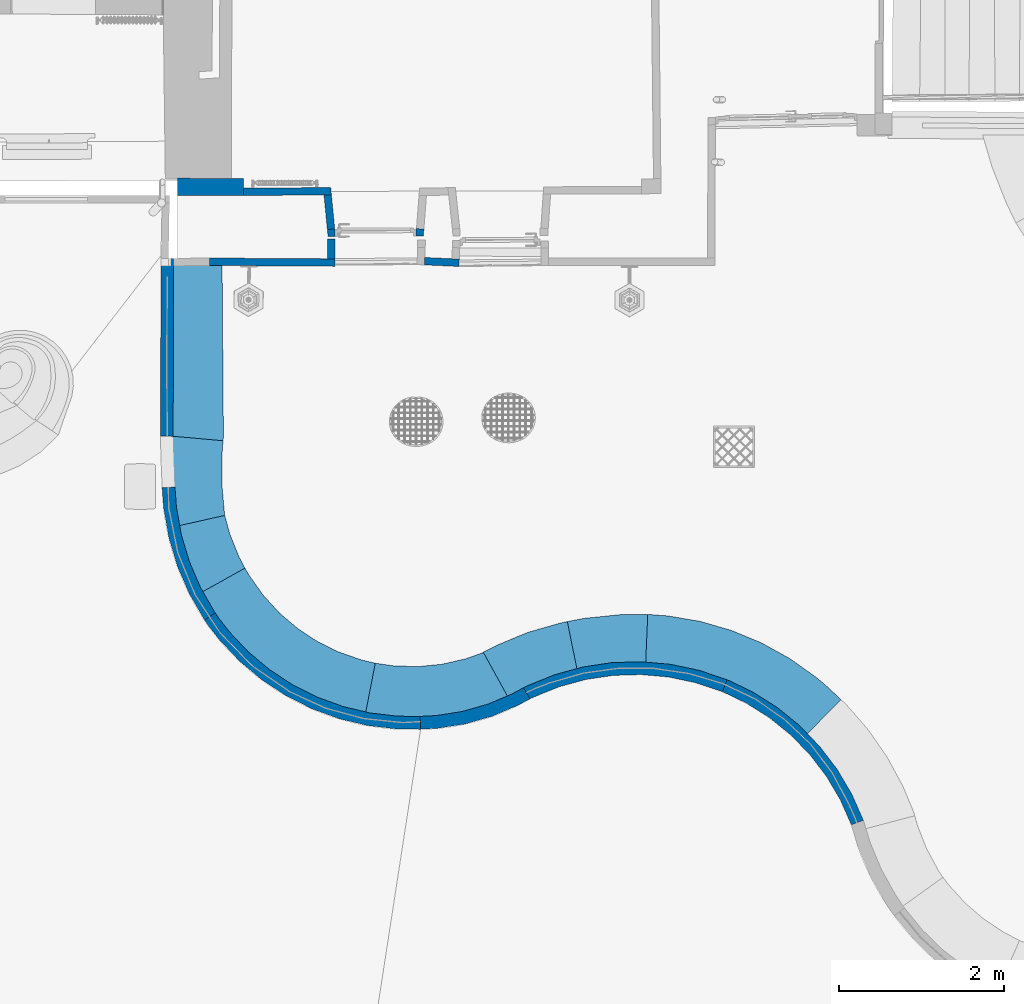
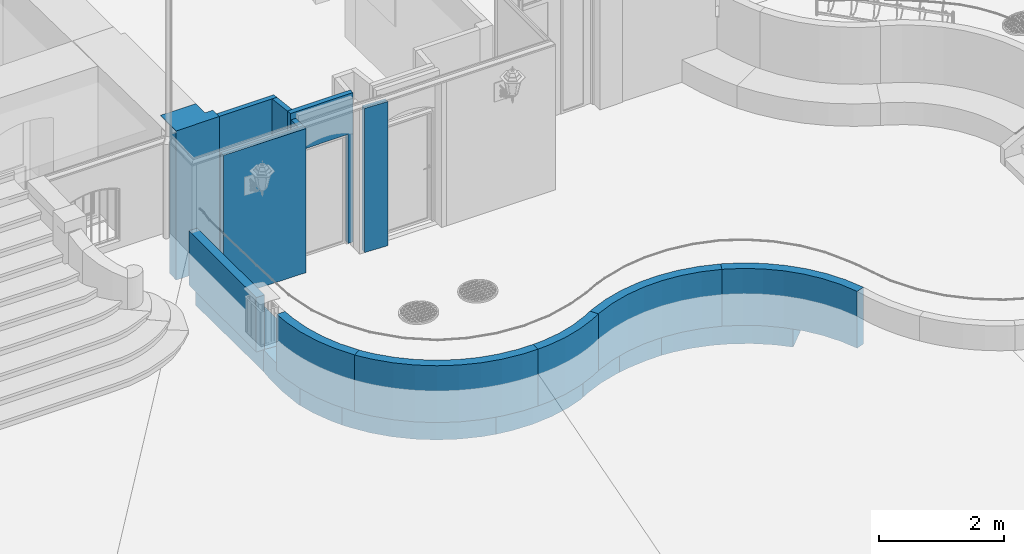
# One storey, part 16 of 133: 21 walls, 1 opening.
"""IFC2X3 building model written with IfcOpenShell, lengths in centimetres."""

from ifc_helpers import new_model, entity, si_unit, converted_unit, direction, frame, origin, origin_with_axes, place, context, subcontext, project, spatial, polyline, outline, extrude, clip, bounded_halfspace, shape, material, layer, layer_set, layer_usage, type_object, element, save


model = new_model("IFC2X3")

# Units and contexts
model_context = context("Model", 3, precision=0.0001, world=origin(), true_north=direction((0.225632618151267, 0.974212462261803, 0.0)))
body_context = subcontext(model_context, "Body", "Model", "MODEL_VIEW")
footprint_context = subcontext(model_context, "FootPrint", "Model", "MODEL_VIEW")
profile_context = subcontext(model_context, "Profile", "Model", "MODEL_VIEW")
ifc_project = project(units=[si_unit("LENGTHUNIT", "METRE", prefix="CENTI"), si_unit("AREAUNIT", "SQUARE_METRE", prefix="CENTI"), si_unit("VOLUMEUNIT", "CUBIC_METRE", prefix="CENTI"), converted_unit("PLANEANGLEUNIT", "DEGREE", entity("IfcRatioMeasure", 0.0174532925), si_unit("PLANEANGLEUNIT", "RADIAN"), dimensions=[0, 0, 0, 0, 0, 0, 0])], contexts=[model_context])

# Site, building, storey
site_placement = place(None, origin_with_axes())
site = spatial("IfcSite", under=ifc_project, at=site_placement, Name="Default Site", CompositionType="ELEMENT")
building_placement = place(site_placement, origin_with_axes())
building = spatial("IfcBuilding", under=site, at=building_placement, Name="Default Building", CompositionType="ELEMENT")
storey_placement = place(building_placement, frame((0.0, 0.0, -291.400371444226), z_axis=(0.0, 0.0, 1.0), x_axis=(1.0, 0.0, 0.0)))
storey = spatial("IfcBuildingStorey", under=building, at=storey_placement, Name="Rez-de-Jardin", CompositionType="ELEMENT", Elevation=-291.400371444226)

# Wall, opening
ifc_material = material(Name="<aucun>")
ifc_layer_1 = layer(ifc_material, 9.0)
ifc_layer_set_1 = layer_set([ifc_layer_1], Name="default")
ifc_layer_usage_1 = layer_usage(ifc_layer_set_1, "AXIS2", "POSITIVE", -4.5)
wall_type_1 = type_object("IfcWallType", Name="default 90", PredefinedType="NOTDEFINED", material=ifc_layer_set_1)
wall_1_placement = place(storey_placement, frame((437.258422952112, -1016.22982376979, -1.94511073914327e-11), z_axis=(0.0, 0.0, 1.0), x_axis=(0.999993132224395, 0.00370614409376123, 0.0)))
wall_1 = element("IfcWallStandardCase", 1, at=wall_1_placement, inside=storey, type_object=wall_type_1, material=ifc_layer_usage_1, Name="Enveloppe 591621", context=body_context, shape_type="SweptSolid", body=[
    extrude(outline(polyline([(-4.86364892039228, 3.65774967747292), (-4.09685410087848, -4.49999999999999), (111.535086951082, -4.50000000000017), (112.195457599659, 3.7848982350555), (103.223912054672, 4.50000000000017), (4.09685410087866, 4.49999999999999), (-4.86364892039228, 3.65774967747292)])), frame((0.0, 0.0, 8.88178419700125e-14), z_axis=(0.0, 0.0, 1.0), x_axis=(1.0, 0.0, 0.0)), (0.0, 0.0, 1.0), 291.413221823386),
])
opening_placement = place(wall_1_placement, frame((4.61849566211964, 0.0, 1.94506633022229e-11), z_axis=(0.0, 0.0, 1.0), x_axis=(1.0, -3.43908929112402e-16, 0.0)))
cartesian_point_1 = entity("IfcCartesianPoint", [0.0, 0.0, 213.0])
cartesian_point_2 = entity("IfcCartesianPoint", [98.1000000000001, 4.49999999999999])
element("IfcOpeningElement", 2, at=opening_placement, cuts=wall_1, Name="4294966342_11", ObjectType="Opening", shapes=[
    shape(body_context, "Body", "SweptSolid", [extrude(outline(polyline([(0.0, 213.0), (0.0, 0.0), (98.1000000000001, 0.0), (98.1000000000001, 213.0), (0.0, 213.0)])), frame((0.0, 14.5, 0.0), z_axis=(0.0, -1.0, 0.0), x_axis=(1.0, 0.0, 0.0)), (0.0, 0.0, 1.0), 29.0)]),
    shape(profile_context, "Profile", "GeometricCurveSet", [entity("IfcGeometricCurveSet", [entity("IfcPolyline", [cartesian_point_1, entity("IfcCartesianPoint", [0.0, 0.0, 0.0]), entity("IfcCartesianPoint", [98.1000000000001, 0.0, 0.0]), entity("IfcCartesianPoint", [98.1000000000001, 0.0, 213.0]), cartesian_point_1])])]),
    shape(footprint_context, "FootPrint", "GeometricCurveSet", [entity("IfcGeometricCurveSet", [entity("IfcPolyline", [cartesian_point_2, entity("IfcCartesianPoint", [0.0, 4.49999999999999]), entity("IfcCartesianPoint", [8.88178419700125e-14, -4.49999999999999]), entity("IfcCartesianPoint", [98.1000000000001, -4.49999999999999]), cartesian_point_2])])]),
])

# Walls
ifc_layer_usage_2 = layer_usage(ifc_layer_set_1, "AXIS2", "POSITIVE", -4.5)
wall_2_placement = place(storey_placement, frame((330.862484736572, -966.623801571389, -1.94511073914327e-11), z_axis=(0.0, 0.0, 1.0), x_axis=(0.999992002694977, 0.00399931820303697, 0.0)))
element("IfcWallStandardCase", 3, at=wall_2_placement, inside=storey, type_object=wall_type_1, material=ifc_layer_usage_2, Name="Enveloppe 590772", context=body_context, shape_type="SweptSolid", body=[
    extrude(outline(polyline([(-0.0682279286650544, -4.50000000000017), (106.45013542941, -4.50000000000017), (105.606834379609, 4.50000000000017), (-4.44089209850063e-13, 4.50000000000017), (-0.0682279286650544, -4.50000000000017)])), frame((0.0, 0.0, 8.88178419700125e-14), z_axis=(0.0, 0.0, 1.0), x_axis=(1.0, 0.0, 0.0)), (0.0, 0.0, 1.0), 291.413221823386),
])
ifc_layer_usage_3 = layer_usage(ifc_layer_set_1, "AXIS2", "POSITIVE", -4.5)
wall_3_placement = place(storey_placement, frame((436.85991127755, -1012.1523978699, -1.94511073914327e-11), z_axis=(0.0, 0.0, 1.0), x_axis=(-0.097272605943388, 0.995257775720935, 0.0)))
element("IfcWallStandardCase", 4, at=wall_3_placement, inside=storey, type_object=wall_type_1, material=ifc_layer_usage_3, Name="Enveloppe 590863", context=body_context, shape_type="SweptSolid", body=[
    extrude(outline(polyline([(42.0553714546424, 4.49999999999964), (3.5527136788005e-13, 4.50000000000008), (0.0, -4.49999999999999), (41.2120704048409, -4.50000000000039), (42.0553714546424, 4.49999999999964)])), frame((0.0, 0.0, 4.44089209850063e-14), z_axis=(0.0, 0.0, 1.0), x_axis=(1.0, 0.0, 0.0)), (0.0, 0.0, 1.0), 291.413221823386),
])
ifc_layer_usage_4 = layer_usage(ifc_layer_set_1, "AXIS2", "POSITIVE", -4.5)
wall_4_placement = place(storey_placement, frame((436.960016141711, -1057.06205301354, -1.94511073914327e-11), z_axis=(0.0, 0.0, 1.0), x_axis=(-0.00267844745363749, 0.999996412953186, 0.0)))
element("IfcWallStandardCase", 5, at=wall_4_placement, inside=storey, type_object=wall_type_1, material=ifc_layer_usage_4, Name="Enveloppe 69545", context=body_context, shape_type="SweptSolid", body=[
    extrude(outline(polyline([(33.0658013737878, 4.49999999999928), (9.08362709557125, 4.49999999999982), (9.00038495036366, -4.50000000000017), (32.9586411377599, -4.5000000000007), (33.0658013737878, 4.49999999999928)])), origin_with_axes(), (0.0, 0.0, 1.0), 281.400371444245),
])
ifc_layer_2 = layer(ifc_material, 80.0)
ifc_layer_set_2 = layer_set([ifc_layer_2], Name="default")
ifc_layer_usage_5 = layer_usage(ifc_layer_set_2, "AXIS2", "POSITIVE", -40.0)
wall_type_2 = type_object("IfcWallType", Name="default 800", PredefinedType="NOTDEFINED", material=ifc_layer_set_2)
wall_5_placement = place(storey_placement, frame((290.812510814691, -970.980782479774, -1.94511073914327e-11), z_axis=(0.0, 0.0, 1.0), x_axis=(0.00358139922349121, 0.999993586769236, 0.0)))
element("IfcWallStandardCase", 6, at=wall_5_placement, inside=storey, type_object=wall_type_2, material=ifc_layer_usage_5, Name="Enveloppe 68454", context=body_context, shape_type="Clipping", body=[
    clip(clip(extrude(outline(polyline([(-0.606470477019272, 39.9999999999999), (0.0, -40.0), (20.5686843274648, -39.9999999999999), (20.5686843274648, -25.0), (49.7467873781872, -24.9999999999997), (49.7467860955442, 40.0003581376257), (-0.606470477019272, 39.9999999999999)])), frame((0.0, 0.0, 1.33226762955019e-13), z_axis=(0.0, 0.0, 1.0), x_axis=(1.0, 0.0, 0.0)), (0.0, 0.0, 1.0), 291.413221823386), bounded_halfspace(frame((49.7467873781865, 23.7096504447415, 289.400371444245), z_axis=(0.0, 0.0, 1.0), x_axis=(2.10682166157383e-15, -1.0, 0.0)), True, frame((49.7467873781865, 23.7096504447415, 289.400371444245), z_axis=(0.0, 0.0, 1.0), x_axis=(1.0, 0.0, 0.0)), polyline([(-29.1781030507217, -48.7096504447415), (-29.1781030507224, -33.4129999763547), (-4.53511921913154, -33.4642636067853), (-3.51591060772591, -24.4663643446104), (-29.1781030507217, -24.4129805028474), (-29.1781030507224, 16.2903495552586), (-1.77635683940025e-13, 16.2903495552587), (7.105427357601e-13, -48.7096504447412), (-29.1781030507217, -48.7096504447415)]))), bounded_halfspace(frame((46.2308767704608, -0.756713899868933, 289.400371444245), z_axis=(0.0, 0.0, 1.0), x_axis=(-0.112552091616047, -0.993645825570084, 0.0)), True, frame((46.2308767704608, -0.756713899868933, 289.400371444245), z_axis=(0.0, 0.0, 1.0), x_axis=(1.0, 0.0, 0.0)), polyline([(-25.6621924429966, -8.94663563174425), (-25.6621924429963, 0.0533838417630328), (-1.77635683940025e-13, 0.0), (-1.01920861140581, -8.99789926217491), (-25.6621924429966, -8.94663563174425)]))),
])
ifc_layer_3 = layer(ifc_material, 15.3)
ifc_layer_set_3 = layer_set([ifc_layer_3], Name="default")
ifc_layer_usage_6 = layer_usage(ifc_layer_set_3, "AXIS2", "POSITIVE", -7.65)
wall_type_3 = type_object("IfcWallType", Name="default 153", PredefinedType="NOTDEFINED", material=ifc_layer_set_3)
wall_6_placement = place(storey_placement, frame((237.787897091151, -1263.1580687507, 43.7000000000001), z_axis=(0.0, 0.0, 1.0), x_axis=(0.00180513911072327, 0.999998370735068, 0.0)))
element("IfcWallStandardCase", 7, at=wall_6_placement, inside=storey, type_object=wall_type_3, material=ifc_layer_usage_6, Name="Enveloppe 69280", context=body_context, shape_type="SweptSolid", body=[
    extrude(outline(polyline([(-6.75015598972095e-11, 7.64999999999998), (-6.75015598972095e-11, -7.65000000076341), (215.597629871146, -7.64999999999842), (215.5120521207, -1.48154040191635), (215.661647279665, 7.51721625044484), (211.128567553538, 7.59258031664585), (211.128463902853, 7.65000000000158), (-6.75015598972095e-11, 7.64999999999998)])), frame((0.0, 0.0, -4.44089209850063e-14), z_axis=(0.0, 0.0, 1.0), x_axis=(1.0, 0.0, 0.0)), (0.0, 0.0, 1.0), 106.29999999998),
])
ifc_layer_usage_7 = layer_usage(ifc_layer_set_1, "AXIS2", "POSITIVE", -4.5)
wall_type_4 = type_object("IfcWallType", Name="default 90", PredefinedType="NOTDEFINED", material=ifc_layer_set_1)
wall_7_placement = place(storey_placement, frame((592.190721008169, -1052.84499498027, -1.94511073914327e-11), z_axis=(0.0, 0.0, 1.0), x_axis=(-0.998926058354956, 0.0463328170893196, 0.0)))
element("IfcWallStandardCase", 8, at=wall_7_placement, inside=storey, type_object=wall_type_4, material=ifc_layer_usage_7, Name="Enveloppe 229363", context=body_context, shape_type="SweptSolid", body=[
    extrude(outline(polyline([(41.9923378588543, 4.49999999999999), (0.00222819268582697, 4.50000000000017), (0.0430745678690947, -4.50000000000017), (42.0013411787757, -4.50899432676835), (41.9923378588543, 4.49999999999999)])), frame((0.0, 0.0, 8.88178419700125e-14), z_axis=(0.0, 0.0, 1.0), x_axis=(1.0, 0.0, 0.0)), (0.0, 0.0, 1.0), 281.400371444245),
])
ifc_layer_usage_8 = layer_usage(ifc_layer_set_1, "AXIS2", "POSITIVE", -4.5)
wall_8_placement = place(storey_placement, frame((441.489566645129, -1052.55009713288, -1.94511073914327e-11), z_axis=(0.0, 0.0, 1.0), x_axis=(-0.999978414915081, 0.00657036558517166, 0.0)))
element("IfcWallStandardCase", 9, at=wall_8_placement, inside=storey, type_object=wall_type_4, material=ifc_layer_usage_8, Name="Enveloppe 292554", context=body_context, shape_type="Clipping", body=[
    clip(extrude(outline(polyline([(152.326103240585, -4.49813632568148), (152.158373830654, 4.50010595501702), (-4.2632564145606e-12, 4.49999999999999), (0.0832421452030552, -4.49999999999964), (152.326103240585, -4.49813632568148)])), frame((0.0, 0.0, 4.44089209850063e-14), z_axis=(0.0, 0.0, 1.0), x_axis=(1.0, 0.0, 0.0)), (0.0, 0.0, 1.0), 281.400371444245), bounded_halfspace(frame((152.326103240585, -4.49813632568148, 43.7000000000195), z_axis=(0.0, 0.0, 1.0), x_axis=(-0.999826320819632, -0.0186367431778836, 0.0)), True, frame((152.326103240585, -4.49813632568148, 43.7000000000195), z_axis=(0.0, 0.0, 1.0), x_axis=(1.0, 0.0, 0.0)), polyline([(-15.6304329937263, 8.998136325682), (-0.167730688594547, 8.99843688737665), (8.88178419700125e-14, 0.0), (-15.5034807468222, -0.00186367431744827), (-15.6304329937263, 8.998136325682)]))),
])
ifc_layer_4 = layer(ifc_material, 62.0)
ifc_layer_set_4 = layer_set([ifc_layer_4], Name="default")
ifc_layer_usage_9 = layer_usage(ifc_layer_set_4, "AXIS2", "POSITIVE", -31.0)
wall_type_5 = type_object("IfcWallType", Name="default 620", PredefinedType="NOTDEFINED", material=ifc_layer_set_4)
wall_9_placement = place(storey_placement, frame((275.36273784, -1268.01944837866, -1.94511073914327e-11), z_axis=(0.0, 0.0, 1.0), x_axis=(-0.00753438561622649, 0.999971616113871, 0.0)))
element("IfcWallStandardCase", 10, at=wall_9_placement, inside=storey, type_object=wall_type_5, material=ifc_layer_usage_9, Name="Enveloppe 230407", context=body_context, shape_type="SweptSolid", body=[
    extrude(outline(polyline([(220.646954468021, 30.9999999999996), (5.18166612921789, 31.0), (-0.829117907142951, -30.4805249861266), (3.30520533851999, -31.0), (220.640925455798, -31.0000000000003), (220.646954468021, 30.9999999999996)])), frame((0.0, 0.0, 8.88178419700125e-14), z_axis=(0.0, 0.0, 1.0), x_axis=(1.0, 0.0, 0.0)), (0.0, 0.0, 1.0), 43.7),
])
ifc_layer_5 = layer(ifc_material, 15.6)
ifc_layer_set_5 = layer_set([ifc_layer_5], Name="default")
ifc_layer_usage_10 = layer_usage(ifc_layer_set_5, "AXIS2", "POSITIVE", -7.8)
wall_type_6 = type_object("IfcWallType", Name="default 156", PredefinedType="NOTDEFINED", material=ifc_layer_set_5)
wall_10_placement = place(storey_placement, frame((545.120303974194, -1610.69307745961, 43.7), z_axis=(0.0, 0.0, 1.0), x_axis=(0.999850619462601, 0.0172840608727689, 0.0)))
element("IfcWallStandardCase", 11, at=wall_10_placement, inside=storey, type_object=wall_type_6, material=ifc_layer_usage_10, Name="Enveloppe courbe 285167", context=body_context, shape_type="SweptSolid", body=[
    extrude(outline(polyline([(-0.124148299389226, 7.80347384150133), (0.179701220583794, -7.79324770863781), (20.635057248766, -7.02463565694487), (54.1741947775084, -2.41055892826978), (86.8921067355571, 6.29011273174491), (118.292822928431, 18.9454860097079), (133.415555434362, 26.7740702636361), (125.847019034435, 40.4116070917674), (111.581707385, 33.0281323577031), (81.9624503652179, 21.0907373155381), (51.1007261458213, 12.8836815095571), (19.4643670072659, 8.53137553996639), (-0.124148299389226, 7.80347384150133)])), frame((0.0, 0.0, 4.44089209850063e-14), z_axis=(0.0, 0.0, 1.0), x_axis=(1.0, 0.0, 0.0)), (0.0, 0.0, 1.0), 111.0),
])
ifc_layer_usage_11 = layer_usage(ifc_layer_set_5, "AXIS2", "POSITIVE", -7.8)
wall_11_placement = place(storey_placement, frame((674.591995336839, -1574.62702953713, 43.7), z_axis=(0.0, 0.0, 1.0), x_axis=(0.896155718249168, 0.443739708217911, 0.0)))
element("IfcWallStandardCase", 12, at=wall_11_placement, inside=storey, type_object=wall_type_6, material=ifc_layer_usage_11, Name="Enveloppe courbe 284505", context=body_context, shape_type="SweptSolid", body=[
    extrude(outline(polyline([(-1.00024385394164, 7.76485355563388), (-8.88178419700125e-14, -7.79999999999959), (4.32457604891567, -7.83287268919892), (37.9363142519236, -10.3408390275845), (71.0155097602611, -16.8065690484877), (103.097803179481, -27.1392980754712), (133.732829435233, -41.1939772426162), (162.490539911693, -58.7733096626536), (188.967239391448, -79.6305200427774), (212.810409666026, -103.491990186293), (224.47904619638, -93.1407014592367), (199.329730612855, -67.9695262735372), (171.401115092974, -45.9685585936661), (141.066403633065, -27.4252195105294), (108.751429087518, -12.5998168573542), (74.9098228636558, -1.70046678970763), (40.0166469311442, 5.11982770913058), (4.56172499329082, 7.76532465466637), (-8.88178419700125e-14, 7.8000084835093), (-1.00024385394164, 7.76485355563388)])), frame((0.0, 0.0, 8.88178419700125e-14), z_axis=(0.0, 0.0, 1.0), x_axis=(1.0, 0.0, 0.0)), (0.0, 0.0, 1.0), 111.0),
])
ifc_layer_usage_12 = layer_usage(ifc_layer_set_5, "AXIS2", "POSITIVE", -7.8)
wall_12_placement = place(storey_placement, frame((1075.15471436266, -1731.79997734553, 43.7), z_axis=(0.0, 0.0, 1.0), x_axis=(-0.348123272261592, 0.937448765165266, 0.0)))
element("IfcWallStandardCase", 13, at=wall_12_placement, inside=storey, type_object=wall_type_6, material=ifc_layer_usage_12, Name="Enveloppe courbe 284085", context=body_context, shape_type="SweptSolid", body=[
    extrude(outline(polyline([(205.990655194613, 98.3710368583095), (204.439641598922, 96.6916527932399), (182.506673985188, 75.6002206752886), (156.182708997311, 55.5007489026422), (127.666281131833, 38.6557722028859), (97.3576985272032, 25.3017571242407), (65.6824272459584, 15.6261647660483), (33.0851186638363, 9.76481923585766), (0.140086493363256, 7.80693743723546), (0.147903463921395, -7.79121648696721), (34.9314750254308, -5.72553157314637), (69.347917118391, 0.462913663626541), (102.790866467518, 10.678464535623), (134.790857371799, 24.7777171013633), (164.898680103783, 42.5627487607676), (192.691686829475, 63.7838966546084), (215.848673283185, 86.0523417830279), (217.499462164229, 87.8423323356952), (205.990655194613, 98.3710368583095)])), frame((0.0, 0.0, 1.33226762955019e-13), z_axis=(0.0, 0.0, 1.0), x_axis=(1.0, 0.0, 0.0)), (0.0, 0.0, 1.0), 111.0),
])
ifc_layer_usage_13 = layer_usage(ifc_layer_set_5, "AXIS2", "POSITIVE", -7.8)
wall_13_placement = place(storey_placement, frame((545.275560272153, -1610.68882354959, 43.7), z_axis=(0.0, 0.0, 1.0), x_axis=(-0.999308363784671, -0.0371859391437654, 0.0)))
element("IfcWallStandardCase", 14, at=wall_13_placement, inside=storey, type_object=wall_type_6, material=ifc_layer_usage_13, Name="Enveloppe courbe 285591", context=body_context, shape_type="SweptSolid", body=[
    extrude(outline(polyline([(257.146526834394, -134.304263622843), (252.525443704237, -127.050269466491), (239.879652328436, -109.537005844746), (216.602597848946, -82.9499424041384), (190.396364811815, -59.2449522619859), (161.615347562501, -38.7426047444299), (130.648759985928, -21.7201589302), (97.9153720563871, -8.4078141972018), (63.8578466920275, 1.0144028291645), (28.9367534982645, 6.41907282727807), (0.130791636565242, 7.79375832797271), (0.124077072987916, -7.80592123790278), (27.4512023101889, -9.11003331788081), (60.5795210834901, -14.237239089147), (92.8886057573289, -23.1757395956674), (123.941531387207, -35.8046569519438), (153.318360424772, -51.9532067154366), (180.621821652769, -71.4030074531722), (205.482682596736, -93.891033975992), (227.564742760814, -119.113174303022), (239.561326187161, -135.727344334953), (243.825949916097, -142.421801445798), (257.146526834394, -134.304263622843)])), frame((0.0, 0.0, 1.33226762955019e-13), z_axis=(0.0, 0.0, 1.0), x_axis=(1.0, 0.0, 0.0)), (0.0, 0.0, 1.0), 111.0),
])
ifc_layer_usage_14 = layer_usage(ifc_layer_set_5, "AXIS2", "POSITIVE", -7.8)
wall_14_placement = place(storey_placement, frame((294.445515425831, -1488.44058555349, 43.7), z_axis=(0.0, 0.0, 1.0), x_axis=(-0.574015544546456, 0.81884440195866, 0.0)))
element("IfcWallStandardCase", 15, at=wall_14_placement, inside=storey, type_object=wall_type_6, material=ifc_layer_usage_14, Name="Enveloppe courbe 286107", context=body_context, shape_type="SweptSolid", body=[
    extrude(outline(polyline([(169.365326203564, -42.4448364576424), (147.543626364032, -29.4850329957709), (114.819432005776, -14.2041249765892), (80.5425018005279, -2.82558807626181), (45.176372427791, 4.49670251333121), (8.35639908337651, 7.73792594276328), (7.93674858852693, -7.85553689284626), (-0.000485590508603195, -7.79999280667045), (8.73722812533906, -7.92942954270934), (42.9071600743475, -10.9373726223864), (76.4968462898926, -17.8918640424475), (109.052043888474, -28.6988562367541), (140.132499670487, -43.2122031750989), (160.858093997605, -55.5210348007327), (169.365326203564, -42.4448364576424)])), frame((0.0, 0.0, 4.44089209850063e-14), z_axis=(0.0, 0.0, 1.0), x_axis=(1.0, 0.0, 0.0)), (0.0, 0.0, 1.0), 111.0),
])
ifc_layer_usage_15 = layer_usage(ifc_layer_set_4, "AXIS2", "POSITIVE", -31.0)
wall_type_7 = type_object("IfcWallType", Name="default 620", PredefinedType="NOTDEFINED", material=ifc_layer_set_4)
wall_15_placement = place(storey_placement, frame((1015.06583542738, -1587.38844238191, 0.0), z_axis=(0.0, 0.0, 1.0), x_axis=(-0.757766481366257, 0.652525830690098, 0.0)))
element("IfcWallStandardCase", 16, at=wall_15_placement, inside=storey, type_object=wall_type_7, material=ifc_layer_usage_15, Name="Enveloppe courbe 232920", context=body_context, shape_type="SweptSolid", body=[
    extrude(outline(polyline([(179.33472709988, 93.3501720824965), (162.992423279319, 81.3045829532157), (135.218747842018, 64.5574028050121), (105.74461819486, 51.0251904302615), (74.9406886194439, 40.8781212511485), (43.1943364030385, 34.2438005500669), (10.9047903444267, 31.2056587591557), (0.0, 31.0000000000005), (-21.5218897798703, 31.8019022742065), (-22.2352940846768, 31.8955954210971), (-23.181482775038, 31.9333048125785), (-27.2372502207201, -29.8815190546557), (-26.1357052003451, -30.0261876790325), (3.5527136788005e-13, -30.9999999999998), (13.2425353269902, -30.7502525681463), (52.4542432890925, -27.0608006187), (91.0063087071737, -19.0042288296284), (128.413916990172, -6.68185326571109), (164.206645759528, 9.75136505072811), (197.934380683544, 30.0887688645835), (217.780111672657, 44.7166649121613), (179.33472709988, 93.3501720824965)])), frame((0.0, 0.0, -4.44089209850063e-14), z_axis=(0.0, 0.0, 1.0), x_axis=(1.0, 0.0, 0.0)), (0.0, 0.0, 1.0), 43.7),
])
ifc_layer_usage_16 = layer_usage(ifc_layer_set_4, "AXIS2", "POSITIVE", -31.0)
wall_16_placement = place(storey_placement, frame((720.429796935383, -1519.95599517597, 0.0), z_axis=(0.0, 0.0, 1.0), x_axis=(0.975133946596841, 0.221616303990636, 0.0)))
element("IfcWallStandardCase", 17, at=wall_16_placement, inside=storey, type_object=wall_type_7, material=ifc_layer_usage_16, Name="Enveloppe courbe 232765", context=body_context, shape_type="SweptSolid", body=[
    extrude(outline(polyline([(8.52859373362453, 30.695147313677), (8.50269611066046, 30.2313125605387), (9.9434112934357, 30.1508720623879), (8.52837070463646, -31.3048447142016), (26.4670056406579, -31.9460572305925), (63.7380943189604, -36.5207421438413), (90.7090965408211, -42.3040872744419), (106.973182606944, 17.5185265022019), (106.415548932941, 17.690536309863), (74.3985068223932, 24.5558950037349), (30.8937021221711, 29.895711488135), (8.52859373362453, 30.695147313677)])), frame((0.0, 0.0, -4.44089209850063e-14), z_axis=(0.0, 0.0, 1.0), x_axis=(1.0, 0.0, 0.0)), (0.0, 0.0, 1.0), 43.7),
])
ifc_layer_usage_17 = layer_usage(ifc_layer_set_4, "AXIS2", "POSITIVE", -31.0)
wall_17_placement = place(storey_placement, frame((305.374809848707, -1438.19549999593, 0.0), z_axis=(0.0, 0.0, 1.0), x_axis=(-0.493064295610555, 0.869992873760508, 0.0)))
element("IfcWallStandardCase", 18, at=wall_17_placement, inside=storey, type_object=wall_type_7, material=ifc_layer_usage_17, Name="Enveloppe courbe 231997", context=body_context, shape_type="SweptSolid", body=[
    extrude(outline(polyline([(85.5157275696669, 18.0562325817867), (56.8397803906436, 25.4394095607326), (19.5796851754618, 30.3457020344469), (0.190844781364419, 30.9936225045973), (-0.22966496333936, -31.0035629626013), (-3.01980662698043e-12, -31.0000000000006), (15.4405763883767, -31.5159806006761), (44.8239572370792, -35.3850920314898), (67.4378628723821, -41.2074792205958), (85.5157275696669, 18.0562325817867)])), frame((0.0, 0.0, -8.88178419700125e-14), z_axis=(0.0, 0.0, 1.0), x_axis=(1.0, 0.0, 0.0)), (0.0, 0.0, 1.0), 43.7),
])
ifc_layer_usage_18 = layer_usage(ifc_layer_set_4, "AXIS2", "POSITIVE", -31.0)
wall_18_placement = place(storey_placement, frame((276.828340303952, -1360.27379007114, 0.0), z_axis=(0.0, 0.0, 1.0), x_axis=(-0.128831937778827, 0.991666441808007, 0.0)))
element("IfcWallStandardCase", 19, at=wall_18_placement, inside=storey, type_object=wall_type_7, material=ifc_layer_usage_18, Name="Enveloppe courbe 231802", context=body_context, shape_type="SweptSolid", body=[
    extrude(outline(polyline([(37.3927548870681, 29.4874088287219), (0.0, 31.0000000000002), (-6.59029443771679, 30.9479172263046), (-8.54469877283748, 30.6836098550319), (-2.95473498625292, -31.0233511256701), (5.32907051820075e-13, -30.9999999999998), (32.384969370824, -32.3100189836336), (70.8045385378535, -37.3012815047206), (87.1523458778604, -40.5865401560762), (100.57977661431, 19.7101312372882), (102.38123934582, 19.4898838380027), (100.512739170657, 19.954423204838), (81.7532579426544, 23.7243323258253), (37.3927548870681, 29.4874088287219)])), origin_with_axes(), (0.0, 0.0, 1.0), 43.7),
])
ifc_layer_usage_19 = layer_usage(ifc_layer_set_4, "AXIS2", "POSITIVE", -31.0)
wall_19_placement = place(storey_placement, frame((636.405215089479, -1552.20220679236, 0.0), z_axis=(0.0, 0.0, 1.0), x_axis=(0.876529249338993, 0.481348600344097, 0.0)))
element("IfcWallStandardCase", 20, at=wall_19_placement, inside=storey, type_object=wall_type_7, material=ifc_layer_usage_19, Name="Enveloppe courbe 232610", context=body_context, shape_type="SweptSolid", body=[
    extrude(outline(polyline([(-2.13258469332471, 30.9372774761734), (-8.88178419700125e-14, 30.588383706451), (-2.66453525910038e-13, -30.9999999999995), (15.6533269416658, -31.4179936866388), (48.348121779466, -35.0122379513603), (80.4349109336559, -42.2445379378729), (88.7581347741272, -44.623477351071), (107.026643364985, 14.0712332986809), (105.663659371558, 14.5449479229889), (105.81617064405, 14.9837573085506), (97.4374238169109, 17.3785662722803), (58.5680568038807, 26.139646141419), (18.9621624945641, 30.4936498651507), (-8.88178419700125e-14, 31.0000000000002), (-2.13258469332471, 30.9372774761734)])), frame((0.0, 0.0, -4.44089209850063e-14), z_axis=(0.0, 0.0, 1.0), x_axis=(1.0, 0.0, 0.0)), (0.0, 0.0, 1.0), 43.7),
])
ifc_layer_usage_20 = layer_usage(ifc_layer_set_4, "AXIS2", "POSITIVE", -31.0)
wall_20_placement = place(storey_placement, frame((484.561885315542, -1568.80534591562, 0.0), z_axis=(0.0, 0.0, 1.0), x_axis=(0.981567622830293, -0.191115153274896, 0.0)))
element("IfcWallStandardCase", 21, at=wall_20_placement, inside=storey, type_object=wall_type_7, material=ifc_layer_usage_20, Name="Enveloppe courbe 232417", context=body_context, shape_type="SweptSolid", body=[
    extrude(outline(polyline([(1.14219744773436e-10, -30.999999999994), (28.0205467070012, -29.6521976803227), (64.9512106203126, -23.6832128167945), (100.815377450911, -13.0406447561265), (135.024158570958, 2.10075582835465), (160.929323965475, 17.3600845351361), (161.369598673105, 17.658997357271), (165.711205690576, 21.4968937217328), (126.294995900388, 68.8201587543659), (106.349219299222, 57.0711829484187), (79.4053212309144, 45.1453457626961), (51.1575899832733, 36.762928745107), (22.0698525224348, 32.0615709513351), (8.95283847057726e-11, 31.000000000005), (1.14219744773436e-10, -30.999999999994)])), frame((0.0, 0.0, -1.33226762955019e-13), z_axis=(0.0, 0.0, 1.0), x_axis=(1.0, 0.0, 0.0)), (0.0, 0.0, 1.0), 43.7),
])
ifc_layer_usage_21 = layer_usage(ifc_layer_set_4, "AXIS2", "POSITIVE", -31.0)
wall_21_placement = place(storey_placement, frame((484.376644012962, -1568.76869276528, 0.0), z_axis=(0.0, 0.0, 1.0), x_axis=(-0.98038526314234, 0.197090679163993, 0.0)))
element("IfcWallStandardCase", 22, at=wall_21_placement, inside=storey, type_object=wall_type_7, material=ifc_layer_usage_21, Name="Enveloppe courbe 232112", context=body_context, shape_type="SweptSolid", body=[
    extrude(outline(polyline([(224.773920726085, -72.5801740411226), (215.793229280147, -62.5350658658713), (189.314653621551, -37.5488669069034), (159.966260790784, -16.0059575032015), (128.192942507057, 1.76709379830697), (94.4763498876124, 15.5008656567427), (59.3275921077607, 24.9871680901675), (23.2794885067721, 30.082198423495), (-0.37766367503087, 30.9988497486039), (-1.09068309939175e-10, -30.9999999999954), (18.3983343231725, -31.7253604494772), (46.8880093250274, -35.7520842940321), (74.6669099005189, -43.2493350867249), (101.313936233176, -54.1034621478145), (126.425146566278, -68.1499279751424), (149.619880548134, -85.175802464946), (170.546529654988, -104.92299071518), (177.644184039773, -112.861878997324), (224.773920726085, -72.5801740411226)])), frame((0.0, 0.0, 4.44089209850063e-14), z_axis=(0.0, 0.0, 1.0), x_axis=(1.0, 0.0, 0.0)), (0.0, 0.0, 1.0), 43.7),
])

save(model, "model.ifc")
